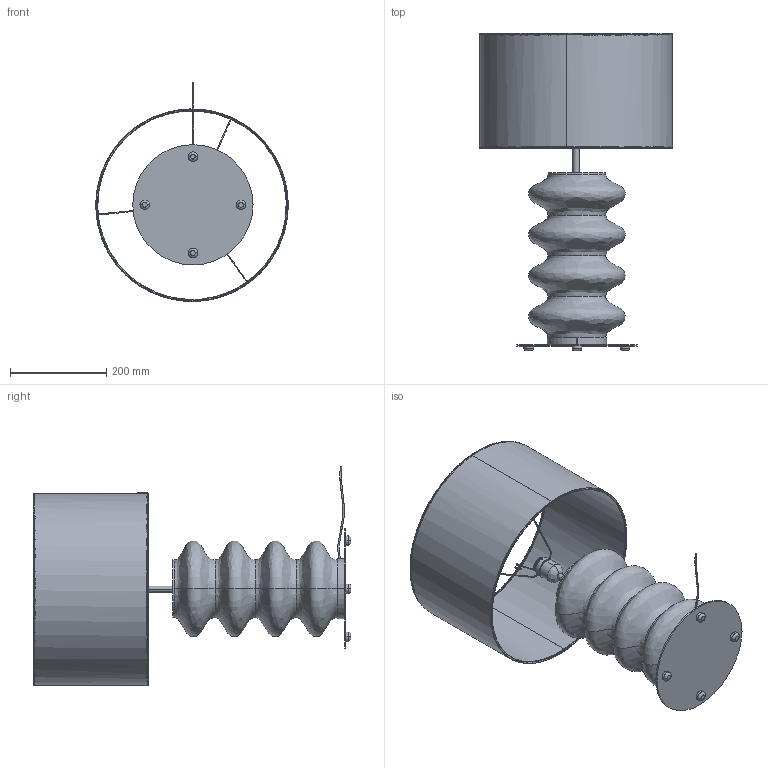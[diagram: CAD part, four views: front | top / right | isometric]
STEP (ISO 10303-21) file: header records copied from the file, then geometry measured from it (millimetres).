
FILE_DESCRIPTION (( 'STEP AP214' ), '1' );
FILE_NAME ('VITREE_V2.STEP', '2026-06-30T08:38:02', ( '' ), ( '' ), 'SwSTEP 2.0', 'SolidWorks 2023', '' );
FILE_SCHEMA (( 'AUTOMOTIVE_DESIGN' ));
Length unit declared in the file: millimetre
Products named in the file (3): VITREE_V2; Shade; VITREE_S1346 (1)
Assembly tree (2 placements, depth 2):
  VITREE_V2
    VITREE_S1346 (1)
    Shade
Bounding box: 399.97 x 660 x 454.7 mm (x, y, z)
Volume: 1021216.1 mm3; surface area: 1277158.5 mm2
Topology: 3 solids, 25 shells, 215 faces, 650 edges, 454 vertices
Faces by surface type: bspline 179, cylinder 16, plane 12, torus 8
Entity records: 18571 total; most frequent: CARTESIAN_POINT 14763, ORIENTED_EDGE 1102, EDGE_CURVE 651, VERTEX_POINT 458, B_SPLINE_CURVE_WITH_KNOTS 268, DIRECTION 244, EDGE_LOOP 226, ADVANCED_FACE 215
